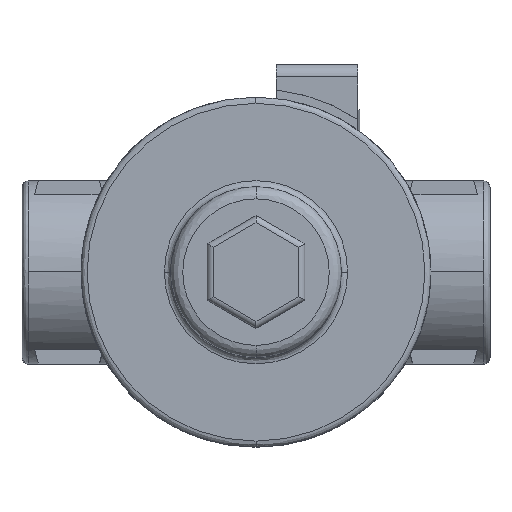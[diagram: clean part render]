
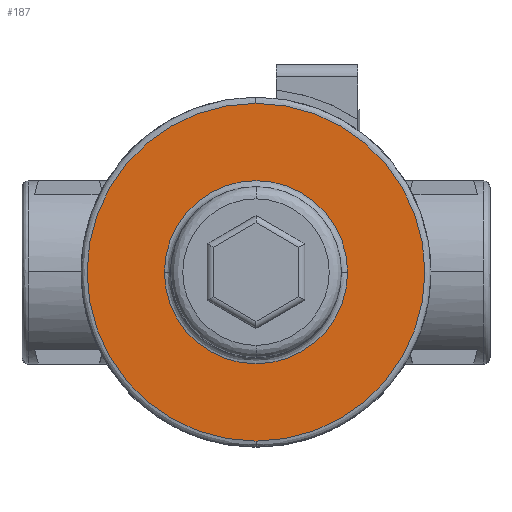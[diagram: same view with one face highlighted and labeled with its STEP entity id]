
A CAD part, top view. The second image highlights one B-rep face of the part: STEP entity #187.
In plain terms, the highlighted planar face has unit normal (0, 0, 1) as drawn and (0, 1, 0) by its records, which use the part's own axes.
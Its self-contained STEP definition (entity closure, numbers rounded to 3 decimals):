
#187=ADVANCED_FACE('',(#1359,#1360),#1358,.T.);
#1358=PLANE('',#2380);
#1359=FACE_OUTER_BOUND('',#2381,.T.);
#1360=FACE_BOUND('',#2382,.T.);
#2377=CARTESIAN_POINT('',(-81.88,42.15,-93.));
#2378=DIRECTION('',(0.,1.,0.));
#2379=DIRECTION('',(0.,0.,1.));
#2380=AXIS2_PLACEMENT_3D('',#2377,#2378,#2379);
#2381=EDGE_LOOP('',(#3421,#3422));
#2382=EDGE_LOOP('',(#3423,#3424,#3425));
#3421=ORIENTED_EDGE('',*,*,#4006,.T.);
#3422=ORIENTED_EDGE('',*,*,#4007,.T.);
#3423=ORIENTED_EDGE('',*,*,#4008,.T.);
#3424=ORIENTED_EDGE('',*,*,#4009,.T.);
#3425=ORIENTED_EDGE('',*,*,#4010,.T.);
#4006=EDGE_CURVE('',#6133,#6134,#6135,.T.);
#4007=EDGE_CURVE('',#6134,#6133,#6141,.T.);
#4008=EDGE_CURVE('',#6147,#6148,#6149,.T.);
#4009=EDGE_CURVE('',#6148,#6155,#6156,.T.);
#4010=EDGE_CURVE('',#6155,#6147,#6162,.T.);
#6133=VERTEX_POINT('',#8079);
#6134=VERTEX_POINT('',#8080);
#6135=CIRCLE('',#8084,41.5);
#6141=CIRCLE('',#8088,41.5);
#6147=VERTEX_POINT('',#8089);
#6148=VERTEX_POINT('',#8090);
#6149=CIRCLE('',#8094,22.5);
#6155=VERTEX_POINT('',#8095);
#6156=CIRCLE('',#8099,22.5);
#6162=CIRCLE('',#8103,22.5);
#8079=CARTESIAN_POINT('',(0.,42.15,41.5));
#8080=CARTESIAN_POINT('',(0.,42.15,-41.5));
#8081=CARTESIAN_POINT('',(0.,42.15,0.));
#8082=DIRECTION('',(0.,1.,0.));
#8083=DIRECTION('',(0.,0.,1.));
#8084=AXIS2_PLACEMENT_3D('',#8081,#8082,#8083);
#8085=CARTESIAN_POINT('',(0.,42.15,0.));
#8086=DIRECTION('',(0.,1.,0.));
#8087=DIRECTION('',(0.,0.,1.));
#8088=AXIS2_PLACEMENT_3D('',#8085,#8086,#8087);
#8089=CARTESIAN_POINT('',(0.,42.15,22.5));
#8090=CARTESIAN_POINT('',(-22.5,42.15,0.));
#8091=CARTESIAN_POINT('',(0.,42.15,0.));
#8092=DIRECTION('',(0.,-1.,0.));
#8093=DIRECTION('',(0.,0.,1.));
#8094=AXIS2_PLACEMENT_3D('',#8091,#8092,#8093);
#8095=CARTESIAN_POINT('',(22.5,42.15,-0.002));
#8096=CARTESIAN_POINT('',(0.,42.15,0.));
#8097=DIRECTION('',(0.,-1.,0.));
#8098=DIRECTION('',(0.,0.,1.));
#8099=AXIS2_PLACEMENT_3D('',#8096,#8097,#8098);
#8100=CARTESIAN_POINT('',(0.,42.15,0.));
#8101=DIRECTION('',(0.,-1.,0.));
#8102=DIRECTION('',(0.,0.,1.));
#8103=AXIS2_PLACEMENT_3D('',#8100,#8101,#8102);
